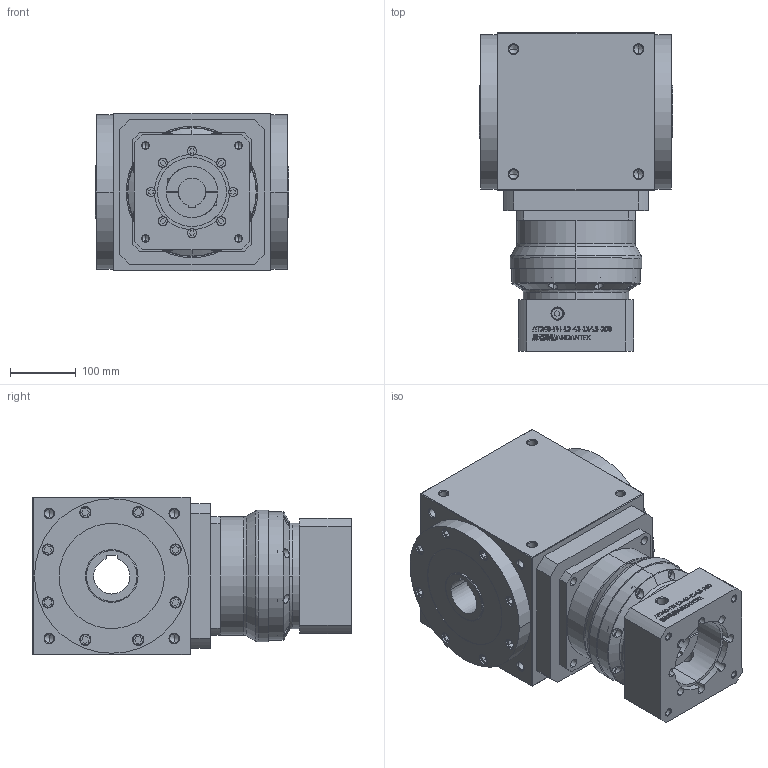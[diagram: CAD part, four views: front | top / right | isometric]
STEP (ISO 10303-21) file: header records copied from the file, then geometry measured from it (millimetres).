
FILE_DESCRIPTION (( 'STEP AP203' ), '1' );
FILE_NAME ('AT240-FH-L2-42-114.3-200.STEP', '2026-06-11T01:54:22', ( 'Windows User' ), ( 'P R C' ), 'SwSTEP 2.0', 'SolidWorks 2016', '' );
FILE_SCHEMA (( 'CONFIG_CONTROL_DESIGN' ));
Length unit declared in the file: millimetre
Products named in the file (7): AT240-转角箱体-双孔输出; AT240-蟀諉啣-蛌180; PAG180-怀堤傷-55粣-唳掛2; PAG180-过度法兰-42孔-带键槽; PAG180-输入法兰-A1-FT-113-114.3-M12-200; PAG180-L1-(A)-S2-P1-(42-113-114.3-M12-200)(2); AT240-FH-L2-42-114.3-200
Assembly tree (6 placements, depth 3):
  AT240-FH-L2-42-114.3-200
    AT240-转角箱体-双孔输出
    AT240-蟀諉啣-蛌180
    PAG180-L1-(A)-S2-P1-(42-113-114.3-M12-200)(2)
      PAG180-怀堤傷-55粣-唳掛2
      PAG180-过度法兰-42孔-带键槽
      PAG180-输入法兰-A1-FT-113-114.3-M12-200
Bounding box: 294 x 484 x 240 mm (x, y, z)
Volume: 21656707.8 mm3; surface area: 1027169.6 mm2
Topology: 5 solids, 5 shells, 1510 faces, 3872 edges, 2493 vertices
Faces by surface type: plane 880, cylinder 344, bspline 156, cone 130
Entity records: 52590 total; most frequent: CARTESIAN_POINT 16295, ORIENTED_EDGE 7628, DIRECTION 6772, EDGE_CURVE 3814, LINE 2626, VECTOR 2626, VERTEX_POINT 2493, AXIS2_PLACEMENT_3D 2073
